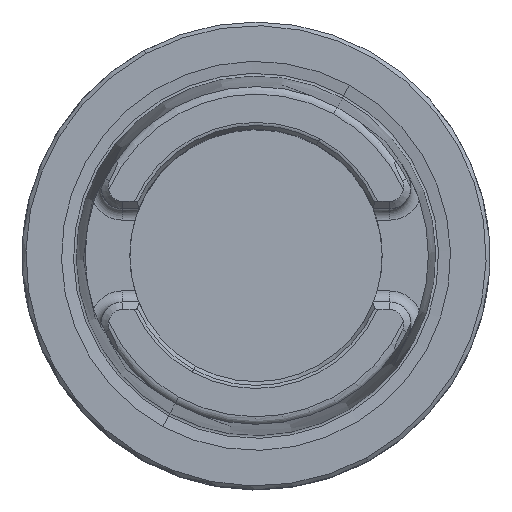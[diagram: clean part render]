
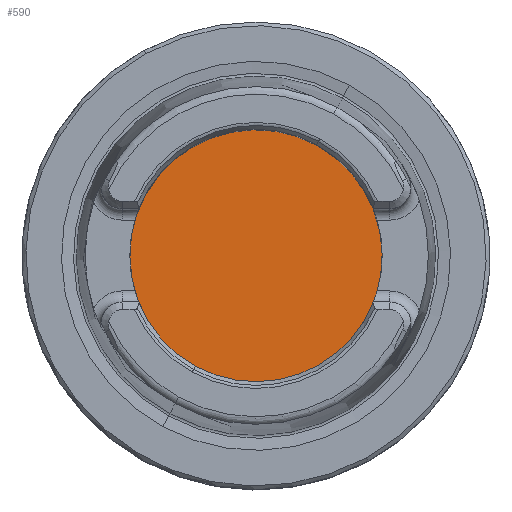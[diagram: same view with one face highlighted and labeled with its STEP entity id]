
A CAD part, top view. The second image highlights one B-rep face of the part: STEP entity #590.
In plain terms, the highlighted planar face has unit normal (0, 0, 1).
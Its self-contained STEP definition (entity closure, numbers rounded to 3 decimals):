
#307=AXIS2_PLACEMENT_3D('Circle Axis2P3D',#305,#306,$) ;
#579=AXIS2_PLACEMENT_3D('Plane Axis2P3D',#576,#577,#578) ;
#583=AXIS2_PLACEMENT_3D('Circle Axis2P3D',#581,#582,$) ;
#302=CARTESIAN_POINT('Vertex',(8.15,14.919,-10.)) ;
#305=CARTESIAN_POINT('Axis2P3D Location',(0.,0.,-10.)) ;
#309=CARTESIAN_POINT('Vertex',(-8.15,-14.919,-10.)) ;
#576=CARTESIAN_POINT('Axis2P3D Location',(0.,-15.75,-10.)) ;
#581=CARTESIAN_POINT('Axis2P3D Location',(0.,0.,-10.)) ;
#306=DIRECTION('Axis2P3D Direction',(0.,0.,-1.)) ;
#577=DIRECTION('Axis2P3D Direction',(0.,0.,-1.)) ;
#578=DIRECTION('Axis2P3D XDirection',(-1.,0.,0.)) ;
#582=DIRECTION('Axis2P3D Direction',(0.,0.,-1.)) ;
#587=ORIENTED_EDGE('',*,*,#585,.T.) ;
#588=ORIENTED_EDGE('',*,*,#311,.T.) ;
#590=ADVANCED_FACE('NO_CUT',(#589),#580,.F.) ;
#308=CIRCLE('generated circle',#307,17.) ;
#584=CIRCLE('generated circle',#583,17.) ;
#311=EDGE_CURVE('',#310,#303,#308,.F.) ;
#585=EDGE_CURVE('',#303,#310,#584,.F.) ;
#586=EDGE_LOOP('',(#587,#588)) ;
#589=FACE_OUTER_BOUND('',#586,.T.) ;
#580=PLANE('',#579) ;
#303=VERTEX_POINT('',#302) ;
#310=VERTEX_POINT('',#309) ;
